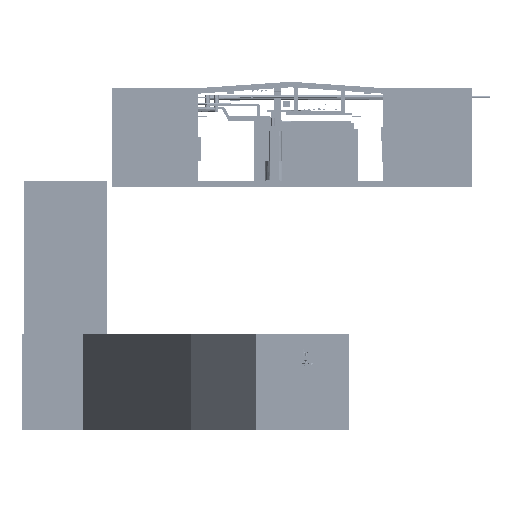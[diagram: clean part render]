
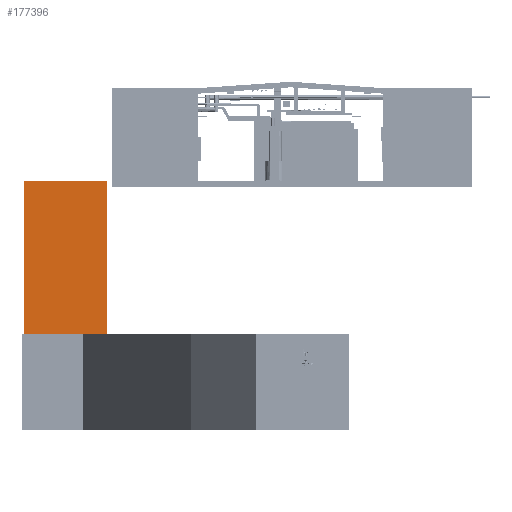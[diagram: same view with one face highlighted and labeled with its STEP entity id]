
A CAD part, left-side view. The second image highlights one B-rep face of the part: STEP entity #177396.
In plain terms, the highlighted planar face has unit normal (-1, 0, 0) as drawn and (0, -1, 0) by its records, which use the part's own axes.
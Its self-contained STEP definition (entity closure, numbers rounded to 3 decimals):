
#29828=ORIENTED_EDGE('',*,*,#70927,.T.);
#29829=ORIENTED_EDGE('',*,*,#71040,.F.);
#29830=ORIENTED_EDGE('',*,*,#71046,.F.);
#29831=ORIENTED_EDGE('',*,*,#71043,.T.);
#70927=EDGE_CURVE('',#92736,#92735,#110858,.T.);
#71040=EDGE_CURVE('',#92804,#92735,#110954,.T.);
#71043=EDGE_CURVE('',#92806,#92736,#110957,.T.);
#71046=EDGE_CURVE('',#92806,#92804,#110960,.T.);
#92735=VERTEX_POINT('',#283458);
#92736=VERTEX_POINT('',#283460);
#92804=VERTEX_POINT('',#283687);
#92806=VERTEX_POINT('',#283695);
#110858=LINE('',#283459,#126517);
#110954=LINE('',#283688,#126613);
#110957=LINE('',#283694,#126616);
#110960=LINE('',#283700,#126619);
#126517=VECTOR('',#229664,1000.);
#126613=VECTOR('',#229888,1000.);
#126616=VECTOR('',#229895,1000.);
#126619=VECTOR('',#229902,1000.);
#140044=EDGE_LOOP('',(#29828,#29829,#29830,#29831));
#156061=FACE_BOUND('',#140044,.T.);
#170960=PLANE('',#202162);
#177396=ADVANCED_FACE('',(#156061),#170960,.F.);
#202162=AXIS2_PLACEMENT_3D('',#283699,#229900,#229901);
#229664=DIRECTION('',(1.,0.,0.));
#229888=DIRECTION('',(0.,0.,-1.));
#229895=DIRECTION('',(0.,0.,-1.));
#229900=DIRECTION('',(0.,1.,0.));
#229901=DIRECTION('',(0.,0.,1.));
#229902=DIRECTION('',(1.,0.,0.));
#283458=CARTESIAN_POINT('',(-8458.2,79984.6,1981.2));
#283459=CARTESIAN_POINT('',(-12217.4,79984.6,1981.2));
#283460=CARTESIAN_POINT('',(-12217.4,79984.6,1981.2));
#283687=CARTESIAN_POINT('',(-8458.2,79984.6,8991.6));
#283688=CARTESIAN_POINT('',(-8458.2,79984.6,8991.6));
#283694=CARTESIAN_POINT('',(-12217.4,79984.6,8991.6));
#283695=CARTESIAN_POINT('',(-12217.4,79984.6,8991.6));
#283699=CARTESIAN_POINT('',(-12217.4,79984.6,8991.6));
#283700=CARTESIAN_POINT('',(-12217.4,79984.6,8991.6));
